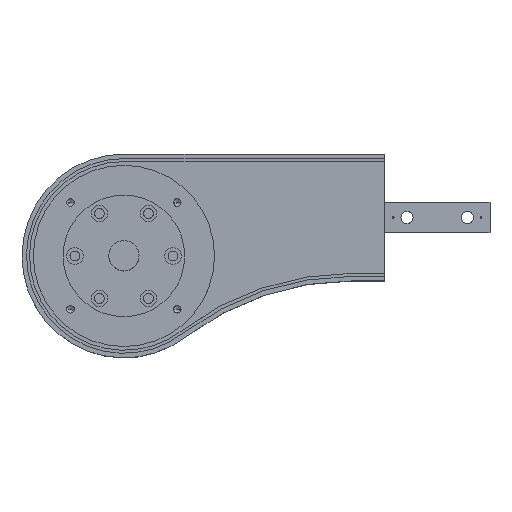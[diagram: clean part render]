
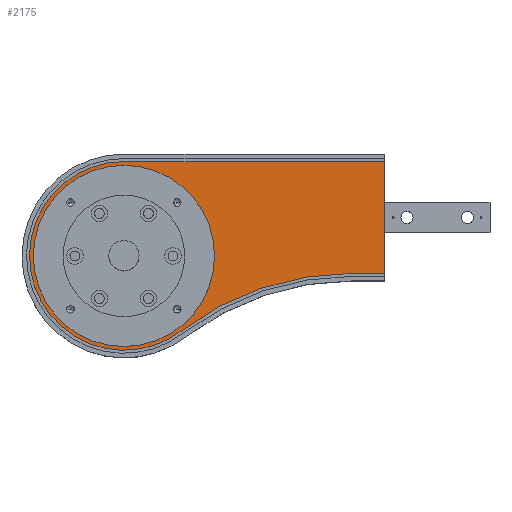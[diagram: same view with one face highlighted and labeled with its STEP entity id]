
A CAD part, top view. The second image highlights one B-rep face of the part: STEP entity #2175.
In plain terms, the highlighted planar face has unit normal (0, 0, 1).
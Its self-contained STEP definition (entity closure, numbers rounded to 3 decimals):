
#47 = VERTEX_POINT ( 'NONE', #472 ) ;
#86 = AXIS2_PLACEMENT_3D ( 'NONE', #2648, #680, #2948 ) ;
#153 = FACE_OUTER_BOUND ( 'NONE', #2072, .T. ) ;
#217 = AXIS2_PLACEMENT_3D ( 'NONE', #1156, #1411, #280 ) ;
#236 = VERTEX_POINT ( 'NONE', #3617 ) ;
#280 = DIRECTION ( 'NONE',  ( 1., 0., 0. ) ) ;
#294 = EDGE_CURVE ( 'NONE', #1596, #47, #2110, .T. ) ;
#320 = DIRECTION ( 'NONE',  ( 0., 0., 1. ) ) ;
#355 = ORIENTED_EDGE ( 'NONE', *, *, #763, .T. ) ;
#472 = CARTESIAN_POINT ( 'NONE',  ( 7.5, -25.5, 32.5 ) ) ;
#488 = CIRCLE ( 'NONE', #86, 187. ) ;
#554 = ORIENTED_EDGE ( 'NONE', *, *, #2061, .T. ) ;
#568 = DIRECTION ( 'NONE',  ( 1., 0., 0. ) ) ;
#616 = CARTESIAN_POINT ( 'NONE',  ( 218.656, -37., 32.5 ) ) ;
#633 = ORIENTED_EDGE ( 'NONE', *, *, #294, .F. ) ;
#680 = DIRECTION ( 'NONE',  ( 0., 0., -1. ) ) ;
#694 = LINE ( 'NONE', #3334, #3149 ) ;
#763 = EDGE_CURVE ( 'Edge6', #2289, #1679, #488, .T. ) ;
#793 = DIRECTION ( 'NONE',  ( 0., 1., 0. ) ) ;
#836 = AXIS2_PLACEMENT_3D ( 'NONE', #2847, #320, #568 ) ;
#870 = DIRECTION ( 'NONE',  ( 1., 0., 0. ) ) ;
#968 = DIRECTION ( 'NONE',  ( 1., 0., 0. ) ) ;
#1001 = EDGE_CURVE ( 'NONE', #47, #1596, #1325, .T. ) ;
#1024 = VERTEX_POINT ( 'NONE', #1402 ) ;
#1156 = CARTESIAN_POINT ( 'NONE',  ( 67.5, -25.5, 32.5 ) ) ;
#1303 = EDGE_CURVE ( 'Edge30', #1679, #236, #1563, .T. ) ;
#1325 = CIRCLE ( 'NONE', #217, 60. ) ;
#1402 = CARTESIAN_POINT ( 'NONE',  ( 240., 37., 32.5 ) ) ;
#1411 = DIRECTION ( 'NONE',  ( 0., 0., 1. ) ) ;
#1438 = CARTESIAN_POINT ( 'NONE',  ( 67.5, 37., 32.5 ) ) ;
#1444 = DIRECTION ( 'NONE',  ( 1., 0., 0. ) ) ;
#1454 = PLANE ( 'NONE',  #1752 ) ;
#1459 = CARTESIAN_POINT ( 'NONE',  ( 67.5, -25.5, 32.5 ) ) ;
#1515 = VERTEX_POINT ( 'NONE', #1438 ) ;
#1563 = LINE ( 'NONE', #2366, #3043 ) ;
#1596 = VERTEX_POINT ( 'NONE', #2278 ) ;
#1679 = VERTEX_POINT ( 'NONE', #616 ) ;
#1695 = FACE_BOUND ( 'NONE', #2118, .T. ) ;
#1752 = AXIS2_PLACEMENT_3D ( 'NONE', #1459, #3406, #1444 ) ;
#2061 = EDGE_CURVE ( 'Edge22', #1515, #2289, #2075, .T. ) ;
#2072 = EDGE_LOOP ( 'NONE', ( #355, #2202, #3388, #2557, #554 ) ) ;
#2075 = CIRCLE ( 'NONE', #836, 62.5 ) ;
#2110 = CIRCLE ( 'NONE', #3494, 60. ) ;
#2118 = EDGE_LOOP ( 'NONE', ( #2330, #633 ) ) ;
#2175 = ADVANCED_FACE ( 'NONE', ( #153, #1695 ), #1454, .T. ) ;
#2202 = ORIENTED_EDGE ( 'NONE', *, *, #1303, .T. ) ;
#2221 = VECTOR ( 'NONE', #3198, 1000. ) ;
#2223 = CARTESIAN_POINT ( 'NONE',  ( 67.5, -25.5, 32.5 ) ) ;
#2278 = CARTESIAN_POINT ( 'NONE',  ( 127.5, -25.5, 32.5 ) ) ;
#2289 = VERTEX_POINT ( 'NONE', #2321 ) ;
#2312 = CARTESIAN_POINT ( 'NONE',  ( 67.5, 37., 32.5 ) ) ;
#2321 = CARTESIAN_POINT ( 'NONE',  ( 105.365, -75.224, 32.5 ) ) ;
#2328 = EDGE_CURVE ( 'NONE', #1515, #1024, #3186, .T. ) ;
#2330 = ORIENTED_EDGE ( 'NONE', *, *, #1001, .F. ) ;
#2366 = CARTESIAN_POINT ( 'NONE',  ( 218.656, -37., 32.5 ) ) ;
#2536 = DIRECTION ( 'NONE',  ( 0., 0., 1. ) ) ;
#2557 = ORIENTED_EDGE ( 'NONE', *, *, #2328, .F. ) ;
#2648 = CARTESIAN_POINT ( 'NONE',  ( 218.656, -224., 32.5 ) ) ;
#2847 = CARTESIAN_POINT ( 'NONE',  ( 67.5, -25.5, 32.5 ) ) ;
#2948 = DIRECTION ( 'NONE',  ( -1., 0., 0. ) ) ;
#3043 = VECTOR ( 'NONE', #968, 1000. ) ;
#3107 = EDGE_CURVE ( 'Edge13', #236, #1024, #694, .T. ) ;
#3149 = VECTOR ( 'NONE', #793, 1000. ) ;
#3186 = LINE ( 'NONE', #2312, #2221 ) ;
#3198 = DIRECTION ( 'NONE',  ( 1., 0., 0. ) ) ;
#3334 = CARTESIAN_POINT ( 'NONE',  ( 240., -42., 32.5 ) ) ;
#3388 = ORIENTED_EDGE ( 'NONE', *, *, #3107, .T. ) ;
#3406 = DIRECTION ( 'NONE',  ( 0., 0., 1. ) ) ;
#3494 = AXIS2_PLACEMENT_3D ( 'NONE', #2223, #2536, #870 ) ;
#3617 = CARTESIAN_POINT ( 'NONE',  ( 240., -37., 32.5 ) ) ;
